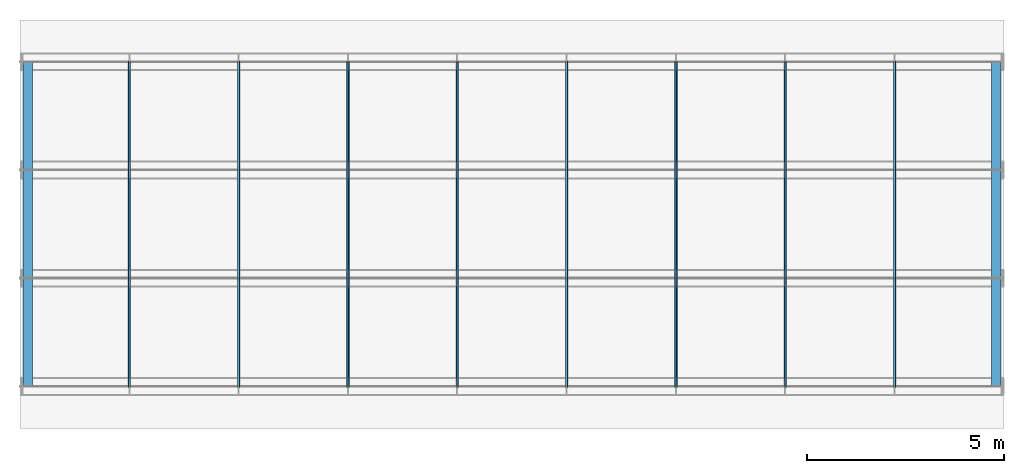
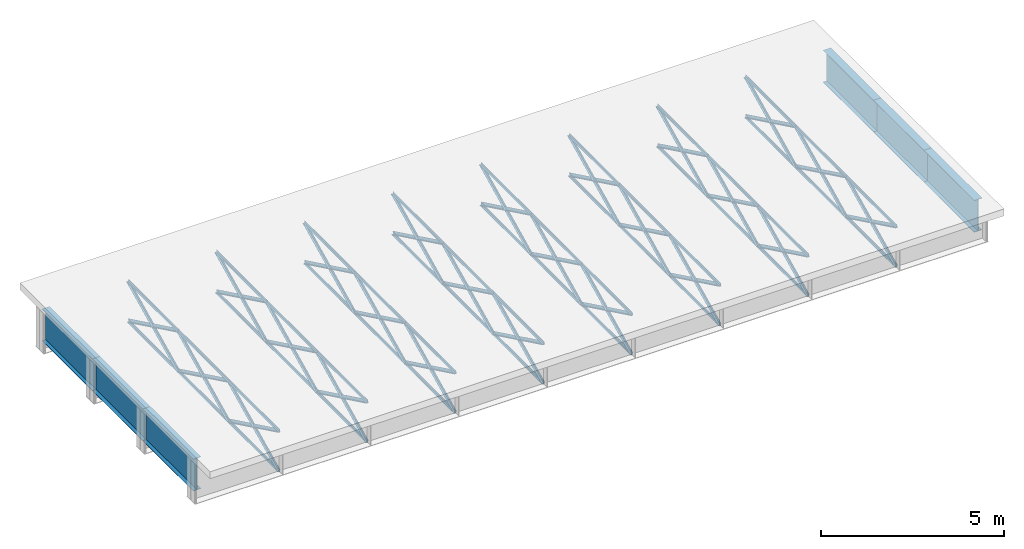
# One storey, part 1 of 10: 102 members.
"""IFC4 building model written with IfcOpenShell, lengths in metres."""

from ifc_helpers import new_model, si_unit, frame, origin, origin_with_axes, origin_2d_with_axis, place, context, subcontext, project, spatial, i_section, l_section, extrude, element, save


model = new_model("IFC4")

# Units and contexts
model_context = context("Model", 3, precision=1e-05, world=origin())
body_context = subcontext(model_context, "Body", "Model", "MODEL_VIEW")
ifc_project = project(units=[si_unit("LENGTHUNIT", "METRE"), si_unit("AREAUNIT", "SQUARE_METRE"), si_unit("VOLUMEUNIT", "CUBIC_METRE"), si_unit("PLANEANGLEUNIT", "RADIAN")], contexts=[model_context])

# Site, building, storey
site_placement = place(None, origin_with_axes())
site = spatial("IfcSite", under=ifc_project, at=site_placement, Name="Default Site")
building_placement = place(site_placement, origin_with_axes())
building = spatial("IfcBuilding", under=site, at=building_placement, Name="Bridge Structure")
storey_placement = place(building_placement, origin_with_axes())
storey = spatial("IfcBuildingStorey", under=building, at=storey_placement, Name="Superstructure")

# Members
for number, where, z_axis, x_axis, name in (
    (1, (0.2, -4.125, 0.1335), (0.0, 1.0, 0.0), (-1.0, 0.0, 0.0), "End Diaphragm"),
    (2, (0.2, -1.375, 0.1335), (0.0, 1.0, 0.0), (-1.0, 0.0, 0.0), "End Diaphragm"),
    (3, (0.2, 1.375, 0.1335), (0.0, 1.0, 0.0), (-1.0, 0.0, 0.0), "End Diaphragm"),
):
    element("IfcMember", number, at=place(storey_placement, frame(where, z_axis=z_axis, x_axis=x_axis)), inside=storey, Name=name, context=body_context, shape_type="SweptSolid", body=[
        extrude(i_section(OverallWidth=0.24, OverallDepth=1.068, WebThickness=0.016, FlangeThickness=0.012, at=origin_2d_with_axis()), origin_with_axes(), (0.0, 0.0, 1.0), 2.75),
    ])
for number, where, z_axis, x_axis, name in (
    (4, (2.7777777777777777, -4.125, 0.6675), (0.0, 0.8995999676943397, -0.4367148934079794), (-1.0, 0.0, 0.0), "Diagonal Brace"),
    (5, (2.7777777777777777, -4.125, -0.6675), (0.0, 0.8995999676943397, 0.4367148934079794), (-1.0, 0.0, 0.0), "Diagonal Brace"),
):
    element("IfcMember", number, at=place(storey_placement, frame(where, z_axis=z_axis, x_axis=x_axis)), inside=storey, Name=name, context=body_context, shape_type="SweptSolid", body=[
        extrude(l_section(Depth=0.1, Width=0.066, Thickness=0.008, at=origin_2d_with_axis()), origin_with_axes(), (0.0, 0.0, 1.0), 3.056914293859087),
    ])
for number, where, z_axis, x_axis, name in (
    (6, (2.7777777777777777, -4.125, -0.6675), (0.0, 1.0, 0.0), (-1.0, 0.0, 0.0), "Bottom Chord"),
    (7, (2.7777777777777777, -4.125, 0.6675), (0.0, 1.0, 0.0), (-1.0, 0.0, 0.0), "Top Chord"),
):
    element("IfcMember", number, at=place(storey_placement, frame(where, z_axis=z_axis, x_axis=x_axis)), inside=storey, Name=name, context=body_context, shape_type="SweptSolid", body=[
        extrude(l_section(Depth=0.08600000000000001, Width=0.053, Thickness=0.008, at=origin_2d_with_axis()), origin_with_axes(), (0.0, 0.0, 1.0), 2.75),
    ])
for number, where, z_axis, x_axis, name in (
    (8, (2.7777777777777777, -1.375, 0.6675), (0.0, 0.8995999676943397, -0.4367148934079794), (-1.0, 0.0, 0.0), "Diagonal Brace"),
    (9, (2.7777777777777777, -1.375, -0.6675), (0.0, 0.8995999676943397, 0.4367148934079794), (-1.0, 0.0, 0.0), "Diagonal Brace"),
):
    element("IfcMember", number, at=place(storey_placement, frame(where, z_axis=z_axis, x_axis=x_axis)), inside=storey, Name=name, context=body_context, shape_type="SweptSolid", body=[
        extrude(l_section(Depth=0.1, Width=0.066, Thickness=0.008, at=origin_2d_with_axis()), origin_with_axes(), (0.0, 0.0, 1.0), 3.056914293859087),
    ])
for number, where, z_axis, x_axis, name in (
    (10, (2.7777777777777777, -1.375, -0.6675), (0.0, 1.0, 0.0), (-1.0, 0.0, 0.0), "Bottom Chord"),
    (11, (2.7777777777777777, -1.375, 0.6675), (0.0, 1.0, 0.0), (-1.0, 0.0, 0.0), "Top Chord"),
):
    element("IfcMember", number, at=place(storey_placement, frame(where, z_axis=z_axis, x_axis=x_axis)), inside=storey, Name=name, context=body_context, shape_type="SweptSolid", body=[
        extrude(l_section(Depth=0.08600000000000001, Width=0.053, Thickness=0.008, at=origin_2d_with_axis()), origin_with_axes(), (0.0, 0.0, 1.0), 2.75),
    ])
for number, where, z_axis, x_axis, name in (
    (12, (2.7777777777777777, 1.375, 0.6675), (0.0, 0.8995999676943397, -0.4367148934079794), (-1.0, 0.0, 0.0), "Diagonal Brace"),
    (13, (2.7777777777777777, 1.375, -0.6675), (0.0, 0.8995999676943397, 0.4367148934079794), (-1.0, 0.0, 0.0), "Diagonal Brace"),
):
    element("IfcMember", number, at=place(storey_placement, frame(where, z_axis=z_axis, x_axis=x_axis)), inside=storey, Name=name, context=body_context, shape_type="SweptSolid", body=[
        extrude(l_section(Depth=0.1, Width=0.066, Thickness=0.008, at=origin_2d_with_axis()), origin_with_axes(), (0.0, 0.0, 1.0), 3.056914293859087),
    ])
for number, where, z_axis, x_axis, name in (
    (14, (2.7777777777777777, 1.375, -0.6675), (0.0, 1.0, 0.0), (-1.0, 0.0, 0.0), "Bottom Chord"),
    (15, (2.7777777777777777, 1.375, 0.6675), (0.0, 1.0, 0.0), (-1.0, 0.0, 0.0), "Top Chord"),
):
    element("IfcMember", number, at=place(storey_placement, frame(where, z_axis=z_axis, x_axis=x_axis)), inside=storey, Name=name, context=body_context, shape_type="SweptSolid", body=[
        extrude(l_section(Depth=0.08600000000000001, Width=0.053, Thickness=0.008, at=origin_2d_with_axis()), origin_with_axes(), (0.0, 0.0, 1.0), 2.75),
    ])
for number, where, z_axis, x_axis, name in (
    (16, (5.555555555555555, -4.125, 0.6675), (0.0, 0.8995999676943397, -0.4367148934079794), (-1.0, 0.0, 0.0), "Diagonal Brace"),
    (17, (5.555555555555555, -4.125, -0.6675), (0.0, 0.8995999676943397, 0.4367148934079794), (-1.0, 0.0, 0.0), "Diagonal Brace"),
):
    element("IfcMember", number, at=place(storey_placement, frame(where, z_axis=z_axis, x_axis=x_axis)), inside=storey, Name=name, context=body_context, shape_type="SweptSolid", body=[
        extrude(l_section(Depth=0.1, Width=0.066, Thickness=0.008, at=origin_2d_with_axis()), origin_with_axes(), (0.0, 0.0, 1.0), 3.056914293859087),
    ])
for number, where, z_axis, x_axis, name in (
    (18, (5.555555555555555, -4.125, -0.6675), (0.0, 1.0, 0.0), (-1.0, 0.0, 0.0), "Bottom Chord"),
    (19, (5.555555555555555, -4.125, 0.6675), (0.0, 1.0, 0.0), (-1.0, 0.0, 0.0), "Top Chord"),
):
    element("IfcMember", number, at=place(storey_placement, frame(where, z_axis=z_axis, x_axis=x_axis)), inside=storey, Name=name, context=body_context, shape_type="SweptSolid", body=[
        extrude(l_section(Depth=0.08600000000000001, Width=0.053, Thickness=0.008, at=origin_2d_with_axis()), origin_with_axes(), (0.0, 0.0, 1.0), 2.75),
    ])
for number, where, z_axis, x_axis, name in (
    (20, (5.555555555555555, -1.375, 0.6675), (0.0, 0.8995999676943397, -0.4367148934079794), (-1.0, 0.0, 0.0), "Diagonal Brace"),
    (21, (5.555555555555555, -1.375, -0.6675), (0.0, 0.8995999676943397, 0.4367148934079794), (-1.0, 0.0, 0.0), "Diagonal Brace"),
):
    element("IfcMember", number, at=place(storey_placement, frame(where, z_axis=z_axis, x_axis=x_axis)), inside=storey, Name=name, context=body_context, shape_type="SweptSolid", body=[
        extrude(l_section(Depth=0.1, Width=0.066, Thickness=0.008, at=origin_2d_with_axis()), origin_with_axes(), (0.0, 0.0, 1.0), 3.056914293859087),
    ])
for number, where, z_axis, x_axis, name in (
    (22, (5.555555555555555, -1.375, -0.6675), (0.0, 1.0, 0.0), (-1.0, 0.0, 0.0), "Bottom Chord"),
    (23, (5.555555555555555, -1.375, 0.6675), (0.0, 1.0, 0.0), (-1.0, 0.0, 0.0), "Top Chord"),
):
    element("IfcMember", number, at=place(storey_placement, frame(where, z_axis=z_axis, x_axis=x_axis)), inside=storey, Name=name, context=body_context, shape_type="SweptSolid", body=[
        extrude(l_section(Depth=0.08600000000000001, Width=0.053, Thickness=0.008, at=origin_2d_with_axis()), origin_with_axes(), (0.0, 0.0, 1.0), 2.75),
    ])
for number, where, z_axis, x_axis, name in (
    (24, (5.555555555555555, 1.375, 0.6675), (0.0, 0.8995999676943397, -0.4367148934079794), (-1.0, 0.0, 0.0), "Diagonal Brace"),
    (25, (5.555555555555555, 1.375, -0.6675), (0.0, 0.8995999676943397, 0.4367148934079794), (-1.0, 0.0, 0.0), "Diagonal Brace"),
):
    element("IfcMember", number, at=place(storey_placement, frame(where, z_axis=z_axis, x_axis=x_axis)), inside=storey, Name=name, context=body_context, shape_type="SweptSolid", body=[
        extrude(l_section(Depth=0.1, Width=0.066, Thickness=0.008, at=origin_2d_with_axis()), origin_with_axes(), (0.0, 0.0, 1.0), 3.056914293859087),
    ])
for number, where, z_axis, x_axis, name in (
    (26, (5.555555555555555, 1.375, -0.6675), (0.0, 1.0, 0.0), (-1.0, 0.0, 0.0), "Bottom Chord"),
    (27, (5.555555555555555, 1.375, 0.6675), (0.0, 1.0, 0.0), (-1.0, 0.0, 0.0), "Top Chord"),
):
    element("IfcMember", number, at=place(storey_placement, frame(where, z_axis=z_axis, x_axis=x_axis)), inside=storey, Name=name, context=body_context, shape_type="SweptSolid", body=[
        extrude(l_section(Depth=0.08600000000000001, Width=0.053, Thickness=0.008, at=origin_2d_with_axis()), origin_with_axes(), (0.0, 0.0, 1.0), 2.75),
    ])
for number, where, z_axis, x_axis, name in (
    (28, (8.333333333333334, -4.125, 0.6675), (0.0, 0.8995999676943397, -0.4367148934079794), (-1.0, 0.0, 0.0), "Diagonal Brace"),
    (29, (8.333333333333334, -4.125, -0.6675), (0.0, 0.8995999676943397, 0.4367148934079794), (-1.0, 0.0, 0.0), "Diagonal Brace"),
):
    element("IfcMember", number, at=place(storey_placement, frame(where, z_axis=z_axis, x_axis=x_axis)), inside=storey, Name=name, context=body_context, shape_type="SweptSolid", body=[
        extrude(l_section(Depth=0.1, Width=0.066, Thickness=0.008, at=origin_2d_with_axis()), origin_with_axes(), (0.0, 0.0, 1.0), 3.056914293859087),
    ])
for number, where, z_axis, x_axis, name in (
    (30, (8.333333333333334, -4.125, -0.6675), (0.0, 1.0, 0.0), (-1.0, 0.0, 0.0), "Bottom Chord"),
    (31, (8.333333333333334, -4.125, 0.6675), (0.0, 1.0, 0.0), (-1.0, 0.0, 0.0), "Top Chord"),
):
    element("IfcMember", number, at=place(storey_placement, frame(where, z_axis=z_axis, x_axis=x_axis)), inside=storey, Name=name, context=body_context, shape_type="SweptSolid", body=[
        extrude(l_section(Depth=0.08600000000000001, Width=0.053, Thickness=0.008, at=origin_2d_with_axis()), origin_with_axes(), (0.0, 0.0, 1.0), 2.75),
    ])
for number, where, z_axis, x_axis, name in (
    (32, (8.333333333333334, -1.375, 0.6675), (0.0, 0.8995999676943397, -0.4367148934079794), (-1.0, 0.0, 0.0), "Diagonal Brace"),
    (33, (8.333333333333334, -1.375, -0.6675), (0.0, 0.8995999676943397, 0.4367148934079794), (-1.0, 0.0, 0.0), "Diagonal Brace"),
):
    element("IfcMember", number, at=place(storey_placement, frame(where, z_axis=z_axis, x_axis=x_axis)), inside=storey, Name=name, context=body_context, shape_type="SweptSolid", body=[
        extrude(l_section(Depth=0.1, Width=0.066, Thickness=0.008, at=origin_2d_with_axis()), origin_with_axes(), (0.0, 0.0, 1.0), 3.056914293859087),
    ])
for number, where, z_axis, x_axis, name in (
    (34, (8.333333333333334, -1.375, -0.6675), (0.0, 1.0, 0.0), (-1.0, 0.0, 0.0), "Bottom Chord"),
    (35, (8.333333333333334, -1.375, 0.6675), (0.0, 1.0, 0.0), (-1.0, 0.0, 0.0), "Top Chord"),
):
    element("IfcMember", number, at=place(storey_placement, frame(where, z_axis=z_axis, x_axis=x_axis)), inside=storey, Name=name, context=body_context, shape_type="SweptSolid", body=[
        extrude(l_section(Depth=0.08600000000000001, Width=0.053, Thickness=0.008, at=origin_2d_with_axis()), origin_with_axes(), (0.0, 0.0, 1.0), 2.75),
    ])
for number, where, z_axis, x_axis, name in (
    (36, (8.333333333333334, 1.375, 0.6675), (0.0, 0.8995999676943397, -0.4367148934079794), (-1.0, 0.0, 0.0), "Diagonal Brace"),
    (37, (8.333333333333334, 1.375, -0.6675), (0.0, 0.8995999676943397, 0.4367148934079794), (-1.0, 0.0, 0.0), "Diagonal Brace"),
):
    element("IfcMember", number, at=place(storey_placement, frame(where, z_axis=z_axis, x_axis=x_axis)), inside=storey, Name=name, context=body_context, shape_type="SweptSolid", body=[
        extrude(l_section(Depth=0.1, Width=0.066, Thickness=0.008, at=origin_2d_with_axis()), origin_with_axes(), (0.0, 0.0, 1.0), 3.056914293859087),
    ])
for number, where, z_axis, x_axis, name in (
    (38, (8.333333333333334, 1.375, -0.6675), (0.0, 1.0, 0.0), (-1.0, 0.0, 0.0), "Bottom Chord"),
    (39, (8.333333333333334, 1.375, 0.6675), (0.0, 1.0, 0.0), (-1.0, 0.0, 0.0), "Top Chord"),
):
    element("IfcMember", number, at=place(storey_placement, frame(where, z_axis=z_axis, x_axis=x_axis)), inside=storey, Name=name, context=body_context, shape_type="SweptSolid", body=[
        extrude(l_section(Depth=0.08600000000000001, Width=0.053, Thickness=0.008, at=origin_2d_with_axis()), origin_with_axes(), (0.0, 0.0, 1.0), 2.75),
    ])
for number, where, z_axis, x_axis, name in (
    (40, (11.11111111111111, -4.125, 0.6675), (0.0, 0.8995999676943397, -0.4367148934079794), (-1.0, 0.0, 0.0), "Diagonal Brace"),
    (41, (11.11111111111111, -4.125, -0.6675), (0.0, 0.8995999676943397, 0.4367148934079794), (-1.0, 0.0, 0.0), "Diagonal Brace"),
):
    element("IfcMember", number, at=place(storey_placement, frame(where, z_axis=z_axis, x_axis=x_axis)), inside=storey, Name=name, context=body_context, shape_type="SweptSolid", body=[
        extrude(l_section(Depth=0.1, Width=0.066, Thickness=0.008, at=origin_2d_with_axis()), origin_with_axes(), (0.0, 0.0, 1.0), 3.056914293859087),
    ])
for number, where, z_axis, x_axis, name in (
    (42, (11.11111111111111, -4.125, -0.6675), (0.0, 1.0, 0.0), (-1.0, 0.0, 0.0), "Bottom Chord"),
    (43, (11.11111111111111, -4.125, 0.6675), (0.0, 1.0, 0.0), (-1.0, 0.0, 0.0), "Top Chord"),
):
    element("IfcMember", number, at=place(storey_placement, frame(where, z_axis=z_axis, x_axis=x_axis)), inside=storey, Name=name, context=body_context, shape_type="SweptSolid", body=[
        extrude(l_section(Depth=0.08600000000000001, Width=0.053, Thickness=0.008, at=origin_2d_with_axis()), origin_with_axes(), (0.0, 0.0, 1.0), 2.75),
    ])
for number, where, z_axis, x_axis, name in (
    (44, (11.11111111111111, -1.375, 0.6675), (0.0, 0.8995999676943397, -0.4367148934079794), (-1.0, 0.0, 0.0), "Diagonal Brace"),
    (45, (11.11111111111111, -1.375, -0.6675), (0.0, 0.8995999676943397, 0.4367148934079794), (-1.0, 0.0, 0.0), "Diagonal Brace"),
):
    element("IfcMember", number, at=place(storey_placement, frame(where, z_axis=z_axis, x_axis=x_axis)), inside=storey, Name=name, context=body_context, shape_type="SweptSolid", body=[
        extrude(l_section(Depth=0.1, Width=0.066, Thickness=0.008, at=origin_2d_with_axis()), origin_with_axes(), (0.0, 0.0, 1.0), 3.056914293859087),
    ])
for number, where, z_axis, x_axis, name in (
    (46, (11.11111111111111, -1.375, -0.6675), (0.0, 1.0, 0.0), (-1.0, 0.0, 0.0), "Bottom Chord"),
    (47, (11.11111111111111, -1.375, 0.6675), (0.0, 1.0, 0.0), (-1.0, 0.0, 0.0), "Top Chord"),
):
    element("IfcMember", number, at=place(storey_placement, frame(where, z_axis=z_axis, x_axis=x_axis)), inside=storey, Name=name, context=body_context, shape_type="SweptSolid", body=[
        extrude(l_section(Depth=0.08600000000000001, Width=0.053, Thickness=0.008, at=origin_2d_with_axis()), origin_with_axes(), (0.0, 0.0, 1.0), 2.75),
    ])
for number, where, z_axis, x_axis, name in (
    (48, (11.11111111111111, 1.375, 0.6675), (0.0, 0.8995999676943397, -0.4367148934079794), (-1.0, 0.0, 0.0), "Diagonal Brace"),
    (49, (11.11111111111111, 1.375, -0.6675), (0.0, 0.8995999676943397, 0.4367148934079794), (-1.0, 0.0, 0.0), "Diagonal Brace"),
):
    element("IfcMember", number, at=place(storey_placement, frame(where, z_axis=z_axis, x_axis=x_axis)), inside=storey, Name=name, context=body_context, shape_type="SweptSolid", body=[
        extrude(l_section(Depth=0.1, Width=0.066, Thickness=0.008, at=origin_2d_with_axis()), origin_with_axes(), (0.0, 0.0, 1.0), 3.056914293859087),
    ])
for number, where, z_axis, x_axis, name in (
    (50, (11.11111111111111, 1.375, -0.6675), (0.0, 1.0, 0.0), (-1.0, 0.0, 0.0), "Bottom Chord"),
    (51, (11.11111111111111, 1.375, 0.6675), (0.0, 1.0, 0.0), (-1.0, 0.0, 0.0), "Top Chord"),
):
    element("IfcMember", number, at=place(storey_placement, frame(where, z_axis=z_axis, x_axis=x_axis)), inside=storey, Name=name, context=body_context, shape_type="SweptSolid", body=[
        extrude(l_section(Depth=0.08600000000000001, Width=0.053, Thickness=0.008, at=origin_2d_with_axis()), origin_with_axes(), (0.0, 0.0, 1.0), 2.75),
    ])
for number, where, z_axis, x_axis, name in (
    (52, (13.88888888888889, -4.125, 0.6675), (0.0, 0.8995999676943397, -0.4367148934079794), (-1.0, 0.0, 0.0), "Diagonal Brace"),
    (53, (13.88888888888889, -4.125, -0.6675), (0.0, 0.8995999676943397, 0.4367148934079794), (-1.0, 0.0, 0.0), "Diagonal Brace"),
):
    element("IfcMember", number, at=place(storey_placement, frame(where, z_axis=z_axis, x_axis=x_axis)), inside=storey, Name=name, context=body_context, shape_type="SweptSolid", body=[
        extrude(l_section(Depth=0.1, Width=0.066, Thickness=0.008, at=origin_2d_with_axis()), origin_with_axes(), (0.0, 0.0, 1.0), 3.056914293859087),
    ])
for number, where, z_axis, x_axis, name in (
    (54, (13.88888888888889, -4.125, -0.6675), (0.0, 1.0, 0.0), (-1.0, 0.0, 0.0), "Bottom Chord"),
    (55, (13.88888888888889, -4.125, 0.6675), (0.0, 1.0, 0.0), (-1.0, 0.0, 0.0), "Top Chord"),
):
    element("IfcMember", number, at=place(storey_placement, frame(where, z_axis=z_axis, x_axis=x_axis)), inside=storey, Name=name, context=body_context, shape_type="SweptSolid", body=[
        extrude(l_section(Depth=0.08600000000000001, Width=0.053, Thickness=0.008, at=origin_2d_with_axis()), origin_with_axes(), (0.0, 0.0, 1.0), 2.75),
    ])
for number, where, z_axis, x_axis, name in (
    (56, (13.88888888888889, -1.375, 0.6675), (0.0, 0.8995999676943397, -0.4367148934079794), (-1.0, 0.0, 0.0), "Diagonal Brace"),
    (57, (13.88888888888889, -1.375, -0.6675), (0.0, 0.8995999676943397, 0.4367148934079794), (-1.0, 0.0, 0.0), "Diagonal Brace"),
):
    element("IfcMember", number, at=place(storey_placement, frame(where, z_axis=z_axis, x_axis=x_axis)), inside=storey, Name=name, context=body_context, shape_type="SweptSolid", body=[
        extrude(l_section(Depth=0.1, Width=0.066, Thickness=0.008, at=origin_2d_with_axis()), origin_with_axes(), (0.0, 0.0, 1.0), 3.056914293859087),
    ])
for number, where, z_axis, x_axis, name in (
    (58, (13.88888888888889, -1.375, -0.6675), (0.0, 1.0, 0.0), (-1.0, 0.0, 0.0), "Bottom Chord"),
    (59, (13.88888888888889, -1.375, 0.6675), (0.0, 1.0, 0.0), (-1.0, 0.0, 0.0), "Top Chord"),
):
    element("IfcMember", number, at=place(storey_placement, frame(where, z_axis=z_axis, x_axis=x_axis)), inside=storey, Name=name, context=body_context, shape_type="SweptSolid", body=[
        extrude(l_section(Depth=0.08600000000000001, Width=0.053, Thickness=0.008, at=origin_2d_with_axis()), origin_with_axes(), (0.0, 0.0, 1.0), 2.75),
    ])
for number, where, z_axis, x_axis, name in (
    (60, (13.88888888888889, 1.375, 0.6675), (0.0, 0.8995999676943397, -0.4367148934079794), (-1.0, 0.0, 0.0), "Diagonal Brace"),
    (61, (13.88888888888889, 1.375, -0.6675), (0.0, 0.8995999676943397, 0.4367148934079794), (-1.0, 0.0, 0.0), "Diagonal Brace"),
):
    element("IfcMember", number, at=place(storey_placement, frame(where, z_axis=z_axis, x_axis=x_axis)), inside=storey, Name=name, context=body_context, shape_type="SweptSolid", body=[
        extrude(l_section(Depth=0.1, Width=0.066, Thickness=0.008, at=origin_2d_with_axis()), origin_with_axes(), (0.0, 0.0, 1.0), 3.056914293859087),
    ])
for number, where, z_axis, x_axis, name in (
    (62, (13.88888888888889, 1.375, -0.6675), (0.0, 1.0, 0.0), (-1.0, 0.0, 0.0), "Bottom Chord"),
    (63, (13.88888888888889, 1.375, 0.6675), (0.0, 1.0, 0.0), (-1.0, 0.0, 0.0), "Top Chord"),
):
    element("IfcMember", number, at=place(storey_placement, frame(where, z_axis=z_axis, x_axis=x_axis)), inside=storey, Name=name, context=body_context, shape_type="SweptSolid", body=[
        extrude(l_section(Depth=0.08600000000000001, Width=0.053, Thickness=0.008, at=origin_2d_with_axis()), origin_with_axes(), (0.0, 0.0, 1.0), 2.75),
    ])
for number, where, z_axis, x_axis, name in (
    (64, (16.666666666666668, -4.125, 0.6675), (0.0, 0.8995999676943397, -0.4367148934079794), (-1.0, 0.0, 0.0), "Diagonal Brace"),
    (65, (16.666666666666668, -4.125, -0.6675), (0.0, 0.8995999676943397, 0.4367148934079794), (-1.0, 0.0, 0.0), "Diagonal Brace"),
):
    element("IfcMember", number, at=place(storey_placement, frame(where, z_axis=z_axis, x_axis=x_axis)), inside=storey, Name=name, context=body_context, shape_type="SweptSolid", body=[
        extrude(l_section(Depth=0.1, Width=0.066, Thickness=0.008, at=origin_2d_with_axis()), origin_with_axes(), (0.0, 0.0, 1.0), 3.056914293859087),
    ])
for number, where, z_axis, x_axis, name in (
    (66, (16.666666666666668, -4.125, -0.6675), (0.0, 1.0, 0.0), (-1.0, 0.0, 0.0), "Bottom Chord"),
    (67, (16.666666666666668, -4.125, 0.6675), (0.0, 1.0, 0.0), (-1.0, 0.0, 0.0), "Top Chord"),
):
    element("IfcMember", number, at=place(storey_placement, frame(where, z_axis=z_axis, x_axis=x_axis)), inside=storey, Name=name, context=body_context, shape_type="SweptSolid", body=[
        extrude(l_section(Depth=0.08600000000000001, Width=0.053, Thickness=0.008, at=origin_2d_with_axis()), origin_with_axes(), (0.0, 0.0, 1.0), 2.75),
    ])
for number, where, z_axis, x_axis, name in (
    (68, (16.666666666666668, -1.375, 0.6675), (0.0, 0.8995999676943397, -0.4367148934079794), (-1.0, 0.0, 0.0), "Diagonal Brace"),
    (69, (16.666666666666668, -1.375, -0.6675), (0.0, 0.8995999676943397, 0.4367148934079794), (-1.0, 0.0, 0.0), "Diagonal Brace"),
):
    element("IfcMember", number, at=place(storey_placement, frame(where, z_axis=z_axis, x_axis=x_axis)), inside=storey, Name=name, context=body_context, shape_type="SweptSolid", body=[
        extrude(l_section(Depth=0.1, Width=0.066, Thickness=0.008, at=origin_2d_with_axis()), origin_with_axes(), (0.0, 0.0, 1.0), 3.056914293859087),
    ])
for number, where, z_axis, x_axis, name in (
    (70, (16.666666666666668, -1.375, -0.6675), (0.0, 1.0, 0.0), (-1.0, 0.0, 0.0), "Bottom Chord"),
    (71, (16.666666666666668, -1.375, 0.6675), (0.0, 1.0, 0.0), (-1.0, 0.0, 0.0), "Top Chord"),
):
    element("IfcMember", number, at=place(storey_placement, frame(where, z_axis=z_axis, x_axis=x_axis)), inside=storey, Name=name, context=body_context, shape_type="SweptSolid", body=[
        extrude(l_section(Depth=0.08600000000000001, Width=0.053, Thickness=0.008, at=origin_2d_with_axis()), origin_with_axes(), (0.0, 0.0, 1.0), 2.75),
    ])
for number, where, z_axis, x_axis, name in (
    (72, (16.666666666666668, 1.375, 0.6675), (0.0, 0.8995999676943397, -0.4367148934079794), (-1.0, 0.0, 0.0), "Diagonal Brace"),
    (73, (16.666666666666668, 1.375, -0.6675), (0.0, 0.8995999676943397, 0.4367148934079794), (-1.0, 0.0, 0.0), "Diagonal Brace"),
):
    element("IfcMember", number, at=place(storey_placement, frame(where, z_axis=z_axis, x_axis=x_axis)), inside=storey, Name=name, context=body_context, shape_type="SweptSolid", body=[
        extrude(l_section(Depth=0.1, Width=0.066, Thickness=0.008, at=origin_2d_with_axis()), origin_with_axes(), (0.0, 0.0, 1.0), 3.056914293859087),
    ])
for number, where, z_axis, x_axis, name in (
    (74, (16.666666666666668, 1.375, -0.6675), (0.0, 1.0, 0.0), (-1.0, 0.0, 0.0), "Bottom Chord"),
    (75, (16.666666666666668, 1.375, 0.6675), (0.0, 1.0, 0.0), (-1.0, 0.0, 0.0), "Top Chord"),
):
    element("IfcMember", number, at=place(storey_placement, frame(where, z_axis=z_axis, x_axis=x_axis)), inside=storey, Name=name, context=body_context, shape_type="SweptSolid", body=[
        extrude(l_section(Depth=0.08600000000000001, Width=0.053, Thickness=0.008, at=origin_2d_with_axis()), origin_with_axes(), (0.0, 0.0, 1.0), 2.75),
    ])
for number, where, z_axis, x_axis, name in (
    (76, (19.444444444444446, -4.125, 0.6675), (0.0, 0.8995999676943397, -0.4367148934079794), (-1.0, 0.0, 0.0), "Diagonal Brace"),
    (77, (19.444444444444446, -4.125, -0.6675), (0.0, 0.8995999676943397, 0.4367148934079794), (-1.0, 0.0, 0.0), "Diagonal Brace"),
):
    element("IfcMember", number, at=place(storey_placement, frame(where, z_axis=z_axis, x_axis=x_axis)), inside=storey, Name=name, context=body_context, shape_type="SweptSolid", body=[
        extrude(l_section(Depth=0.1, Width=0.066, Thickness=0.008, at=origin_2d_with_axis()), origin_with_axes(), (0.0, 0.0, 1.0), 3.056914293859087),
    ])
for number, where, z_axis, x_axis, name in (
    (78, (19.444444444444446, -4.125, -0.6675), (0.0, 1.0, 0.0), (-1.0, 0.0, 0.0), "Bottom Chord"),
    (79, (19.444444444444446, -4.125, 0.6675), (0.0, 1.0, 0.0), (-1.0, 0.0, 0.0), "Top Chord"),
):
    element("IfcMember", number, at=place(storey_placement, frame(where, z_axis=z_axis, x_axis=x_axis)), inside=storey, Name=name, context=body_context, shape_type="SweptSolid", body=[
        extrude(l_section(Depth=0.08600000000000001, Width=0.053, Thickness=0.008, at=origin_2d_with_axis()), origin_with_axes(), (0.0, 0.0, 1.0), 2.75),
    ])
for number, where, z_axis, x_axis, name in (
    (80, (19.444444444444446, -1.375, 0.6675), (0.0, 0.8995999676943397, -0.4367148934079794), (-1.0, 0.0, 0.0), "Diagonal Brace"),
    (81, (19.444444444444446, -1.375, -0.6675), (0.0, 0.8995999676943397, 0.4367148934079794), (-1.0, 0.0, 0.0), "Diagonal Brace"),
):
    element("IfcMember", number, at=place(storey_placement, frame(where, z_axis=z_axis, x_axis=x_axis)), inside=storey, Name=name, context=body_context, shape_type="SweptSolid", body=[
        extrude(l_section(Depth=0.1, Width=0.066, Thickness=0.008, at=origin_2d_with_axis()), origin_with_axes(), (0.0, 0.0, 1.0), 3.056914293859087),
    ])
for number, where, z_axis, x_axis, name in (
    (82, (19.444444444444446, -1.375, -0.6675), (0.0, 1.0, 0.0), (-1.0, 0.0, 0.0), "Bottom Chord"),
    (83, (19.444444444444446, -1.375, 0.6675), (0.0, 1.0, 0.0), (-1.0, 0.0, 0.0), "Top Chord"),
):
    element("IfcMember", number, at=place(storey_placement, frame(where, z_axis=z_axis, x_axis=x_axis)), inside=storey, Name=name, context=body_context, shape_type="SweptSolid", body=[
        extrude(l_section(Depth=0.08600000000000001, Width=0.053, Thickness=0.008, at=origin_2d_with_axis()), origin_with_axes(), (0.0, 0.0, 1.0), 2.75),
    ])
for number, where, z_axis, x_axis, name in (
    (84, (19.444444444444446, 1.375, 0.6675), (0.0, 0.8995999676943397, -0.4367148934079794), (-1.0, 0.0, 0.0), "Diagonal Brace"),
    (85, (19.444444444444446, 1.375, -0.6675), (0.0, 0.8995999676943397, 0.4367148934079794), (-1.0, 0.0, 0.0), "Diagonal Brace"),
):
    element("IfcMember", number, at=place(storey_placement, frame(where, z_axis=z_axis, x_axis=x_axis)), inside=storey, Name=name, context=body_context, shape_type="SweptSolid", body=[
        extrude(l_section(Depth=0.1, Width=0.066, Thickness=0.008, at=origin_2d_with_axis()), origin_with_axes(), (0.0, 0.0, 1.0), 3.056914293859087),
    ])
for number, where, z_axis, x_axis, name in (
    (86, (19.444444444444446, 1.375, -0.6675), (0.0, 1.0, 0.0), (-1.0, 0.0, 0.0), "Bottom Chord"),
    (87, (19.444444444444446, 1.375, 0.6675), (0.0, 1.0, 0.0), (-1.0, 0.0, 0.0), "Top Chord"),
):
    element("IfcMember", number, at=place(storey_placement, frame(where, z_axis=z_axis, x_axis=x_axis)), inside=storey, Name=name, context=body_context, shape_type="SweptSolid", body=[
        extrude(l_section(Depth=0.08600000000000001, Width=0.053, Thickness=0.008, at=origin_2d_with_axis()), origin_with_axes(), (0.0, 0.0, 1.0), 2.75),
    ])
for number, where, z_axis, x_axis, name in (
    (88, (22.22222222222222, -4.125, 0.6675), (0.0, 0.8995999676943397, -0.4367148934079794), (-1.0, 0.0, 0.0), "Diagonal Brace"),
    (89, (22.22222222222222, -4.125, -0.6675), (0.0, 0.8995999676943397, 0.4367148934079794), (-1.0, 0.0, 0.0), "Diagonal Brace"),
):
    element("IfcMember", number, at=place(storey_placement, frame(where, z_axis=z_axis, x_axis=x_axis)), inside=storey, Name=name, context=body_context, shape_type="SweptSolid", body=[
        extrude(l_section(Depth=0.1, Width=0.066, Thickness=0.008, at=origin_2d_with_axis()), origin_with_axes(), (0.0, 0.0, 1.0), 3.056914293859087),
    ])
for number, where, z_axis, x_axis, name in (
    (90, (22.22222222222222, -4.125, -0.6675), (0.0, 1.0, 0.0), (-1.0, 0.0, 0.0), "Bottom Chord"),
    (91, (22.22222222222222, -4.125, 0.6675), (0.0, 1.0, 0.0), (-1.0, 0.0, 0.0), "Top Chord"),
):
    element("IfcMember", number, at=place(storey_placement, frame(where, z_axis=z_axis, x_axis=x_axis)), inside=storey, Name=name, context=body_context, shape_type="SweptSolid", body=[
        extrude(l_section(Depth=0.08600000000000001, Width=0.053, Thickness=0.008, at=origin_2d_with_axis()), origin_with_axes(), (0.0, 0.0, 1.0), 2.75),
    ])
for number, where, z_axis, x_axis, name in (
    (92, (22.22222222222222, -1.375, 0.6675), (0.0, 0.8995999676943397, -0.4367148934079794), (-1.0, 0.0, 0.0), "Diagonal Brace"),
    (93, (22.22222222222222, -1.375, -0.6675), (0.0, 0.8995999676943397, 0.4367148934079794), (-1.0, 0.0, 0.0), "Diagonal Brace"),
):
    element("IfcMember", number, at=place(storey_placement, frame(where, z_axis=z_axis, x_axis=x_axis)), inside=storey, Name=name, context=body_context, shape_type="SweptSolid", body=[
        extrude(l_section(Depth=0.1, Width=0.066, Thickness=0.008, at=origin_2d_with_axis()), origin_with_axes(), (0.0, 0.0, 1.0), 3.056914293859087),
    ])
for number, where, z_axis, x_axis, name in (
    (94, (22.22222222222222, -1.375, -0.6675), (0.0, 1.0, 0.0), (-1.0, 0.0, 0.0), "Bottom Chord"),
    (95, (22.22222222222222, -1.375, 0.6675), (0.0, 1.0, 0.0), (-1.0, 0.0, 0.0), "Top Chord"),
):
    element("IfcMember", number, at=place(storey_placement, frame(where, z_axis=z_axis, x_axis=x_axis)), inside=storey, Name=name, context=body_context, shape_type="SweptSolid", body=[
        extrude(l_section(Depth=0.08600000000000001, Width=0.053, Thickness=0.008, at=origin_2d_with_axis()), origin_with_axes(), (0.0, 0.0, 1.0), 2.75),
    ])
for number, where, z_axis, x_axis, name in (
    (96, (22.22222222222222, 1.375, 0.6675), (0.0, 0.8995999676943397, -0.4367148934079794), (-1.0, 0.0, 0.0), "Diagonal Brace"),
    (97, (22.22222222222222, 1.375, -0.6675), (0.0, 0.8995999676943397, 0.4367148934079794), (-1.0, 0.0, 0.0), "Diagonal Brace"),
):
    element("IfcMember", number, at=place(storey_placement, frame(where, z_axis=z_axis, x_axis=x_axis)), inside=storey, Name=name, context=body_context, shape_type="SweptSolid", body=[
        extrude(l_section(Depth=0.1, Width=0.066, Thickness=0.008, at=origin_2d_with_axis()), origin_with_axes(), (0.0, 0.0, 1.0), 3.056914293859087),
    ])
for number, where, z_axis, x_axis, name in (
    (98, (22.22222222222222, 1.375, -0.6675), (0.0, 1.0, 0.0), (-1.0, 0.0, 0.0), "Bottom Chord"),
    (99, (22.22222222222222, 1.375, 0.6675), (0.0, 1.0, 0.0), (-1.0, 0.0, 0.0), "Top Chord"),
):
    element("IfcMember", number, at=place(storey_placement, frame(where, z_axis=z_axis, x_axis=x_axis)), inside=storey, Name=name, context=body_context, shape_type="SweptSolid", body=[
        extrude(l_section(Depth=0.08600000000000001, Width=0.053, Thickness=0.008, at=origin_2d_with_axis()), origin_with_axes(), (0.0, 0.0, 1.0), 2.75),
    ])
for number, where, z_axis, x_axis, name in (
    (100, (24.8, -4.125, 0.1335), (0.0, 1.0, 0.0), (-1.0, 0.0, 0.0), "End Diaphragm"),
    (101, (24.8, -1.375, 0.1335), (0.0, 1.0, 0.0), (-1.0, 0.0, 0.0), "End Diaphragm"),
    (102, (24.8, 1.375, 0.1335), (0.0, 1.0, 0.0), (-1.0, 0.0, 0.0), "End Diaphragm"),
):
    element("IfcMember", number, at=place(storey_placement, frame(where, z_axis=z_axis, x_axis=x_axis)), inside=storey, Name=name, context=body_context, shape_type="SweptSolid", body=[
        extrude(i_section(OverallWidth=0.24, OverallDepth=1.068, WebThickness=0.016, FlangeThickness=0.012, at=origin_2d_with_axis()), origin_with_axes(), (0.0, 0.0, 1.0), 2.75),
    ])

save(model, "model.ifc")
